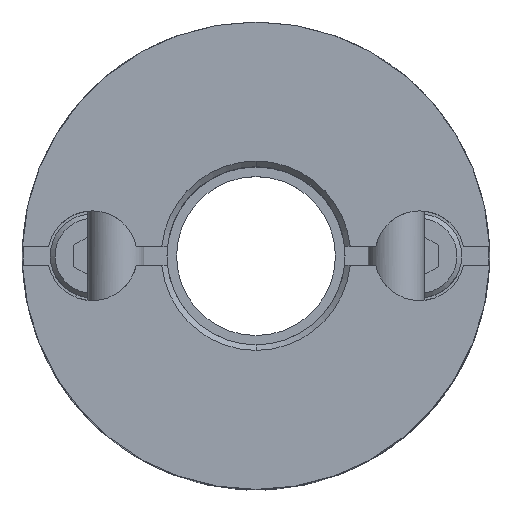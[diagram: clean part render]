
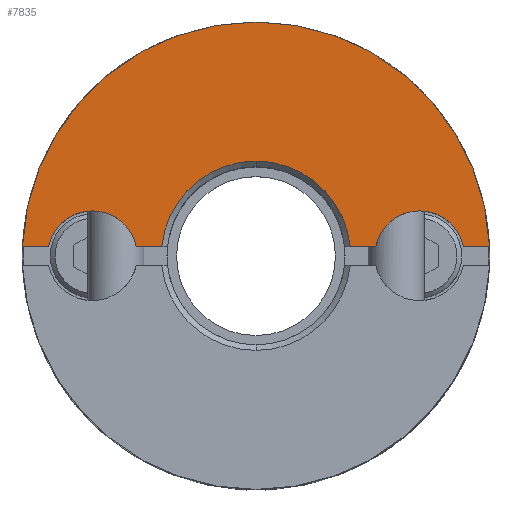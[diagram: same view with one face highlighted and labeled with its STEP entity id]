
A CAD part, top view. The second image highlights one B-rep face of the part: STEP entity #7835.
In plain terms, the highlighted planar face has unit normal (0, 0, 1).
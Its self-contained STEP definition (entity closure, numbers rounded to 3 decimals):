
#809=CARTESIAN_POINT('',(0.,12.5,11.7));
#810=VERTEX_POINT('',#809);
#817=CARTESIAN_POINT('',(12.49,0.5,11.7));
#818=VERTEX_POINT('',#817);
#819=CARTESIAN_POINT('',(0.,0.0,11.7));
#820=DIRECTION('',(0.0,0.0,-1.0));
#821=DIRECTION('',(0.0,-1.0,0.0));
#822=AXIS2_PLACEMENT_3D('',#819,#820,#821);
#823=CIRCLE('',#822,12.5);
#824=EDGE_CURVE('',#810,#818,#823,.T.);
#1028=CARTESIAN_POINT('',(0.,5.063,11.7));
#1029=VERTEX_POINT('',#1028);
#1037=CARTESIAN_POINT('',(5.038,0.5,11.7));
#1038=VERTEX_POINT('',#1037);
#1052=CARTESIAN_POINT('',(0.,0.0,11.7));
#1053=DIRECTION('',(0.0,0.0,1.0));
#1054=DIRECTION('',(0.0,1.0,0.0));
#1055=AXIS2_PLACEMENT_3D('',#1052,#1053,#1054);
#1056=CIRCLE('',#1055,5.063);
#1057=EDGE_CURVE('',#1038,#1029,#1056,.T.);
#1428=CARTESIAN_POINT('',(8.75,2.4,11.7));
#1429=VERTEX_POINT('',#1428);
#1436=CARTESIAN_POINT('',(6.403,0.5,11.7));
#1437=VERTEX_POINT('',#1436);
#1438=CARTESIAN_POINT('',(8.75,0.,11.7));
#1439=DIRECTION('',(0.0,0.0,-1.0));
#1440=DIRECTION('',(0.0,-1.0,0.0));
#1441=AXIS2_PLACEMENT_3D('',#1438,#1439,#1440);
#1442=CIRCLE('',#1441,2.4);
#1443=EDGE_CURVE('',#1437,#1429,#1442,.T.);
#1503=CARTESIAN_POINT('',(11.097,0.5,11.7));
#1504=VERTEX_POINT('',#1503);
#1511=CARTESIAN_POINT('',(8.75,0.,11.7));
#1512=DIRECTION('',(0.0,0.0,-1.0));
#1513=DIRECTION('',(0.0,-1.0,0.0));
#1514=AXIS2_PLACEMENT_3D('',#1511,#1512,#1513);
#1515=CIRCLE('',#1514,2.4);
#1516=EDGE_CURVE('',#1429,#1504,#1515,.T.);
#1837=CARTESIAN_POINT('',(-8.75,2.4,11.7));
#1838=VERTEX_POINT('',#1837);
#1870=CARTESIAN_POINT('',(-6.403,0.5,11.7));
#1871=VERTEX_POINT('',#1870);
#1878=CARTESIAN_POINT('',(-8.75,0.,11.7));
#1879=DIRECTION('',(0.0,0.0,-1.0));
#1880=DIRECTION('',(0.0,-1.0,0.0));
#1881=AXIS2_PLACEMENT_3D('',#1878,#1879,#1880);
#1882=CIRCLE('',#1881,2.4);
#1883=EDGE_CURVE('',#1838,#1871,#1882,.T.);
#6343=CARTESIAN_POINT('',(-11.097,0.5,11.7));
#6344=VERTEX_POINT('',#6343);
#6345=CARTESIAN_POINT('',(-8.75,0.,11.7));
#6346=DIRECTION('',(0.0,0.0,-1.0));
#6347=DIRECTION('',(0.0,-1.0,0.0));
#6348=AXIS2_PLACEMENT_3D('',#6345,#6346,#6347);
#6349=CIRCLE('',#6348,2.4);
#6350=EDGE_CURVE('',#6344,#1838,#6349,.T.);
#6870=CARTESIAN_POINT('',(5.038,0.5,11.7));
#6871=DIRECTION('',(1.0,0.0,0.0));
#6872=VECTOR('',#6871,1.365);
#6873=LINE('',#6870,#6872);
#6874=EDGE_CURVE('',#1038,#1437,#6873,.T.);
#6938=CARTESIAN_POINT('',(-5.038,0.5,11.7));
#6939=VERTEX_POINT('',#6938);
#6953=CARTESIAN_POINT('',(-6.403,0.5,11.7));
#6954=DIRECTION('',(1.0,0.0,0.0));
#6955=VECTOR('',#6954,1.365);
#6956=LINE('',#6953,#6955);
#6957=EDGE_CURVE('',#1871,#6939,#6956,.T.);
#7613=CARTESIAN_POINT('',(-12.49,0.5,11.7));
#7614=VERTEX_POINT('',#7613);
#7615=CARTESIAN_POINT('',(-12.49,0.5,11.7));
#7616=DIRECTION('',(1.0,0.0,0.0));
#7617=VECTOR('',#7616,1.393);
#7618=LINE('',#7615,#7617);
#7619=EDGE_CURVE('',#7614,#6344,#7618,.T.);
#7719=CARTESIAN_POINT('',(11.097,0.5,11.7));
#7720=DIRECTION('',(1.0,0.0,0.0));
#7721=VECTOR('',#7720,1.393);
#7722=LINE('',#7719,#7721);
#7723=EDGE_CURVE('',#1504,#818,#7722,.T.);
#7804=CARTESIAN_POINT('',(0.,-1.136,11.7));
#7805=DIRECTION('',(0.0,0.0,1.0));
#7806=DIRECTION('',(0.0,-1.0,0.0));
#7807=AXIS2_PLACEMENT_3D('',#7804,#7805,#7806);
#7808=PLANE('',#7807);
#7809=ORIENTED_EDGE('',*,*,#6350,.T.);
#7810=ORIENTED_EDGE('',*,*,#1883,.T.);
#7811=ORIENTED_EDGE('',*,*,#6957,.T.);
#7812=CARTESIAN_POINT('',(0.,0.0,11.7));
#7813=DIRECTION('',(0.0,0.0,1.0));
#7814=DIRECTION('',(0.0,1.0,0.0));
#7815=AXIS2_PLACEMENT_3D('',#7812,#7813,#7814);
#7816=CIRCLE('',#7815,5.063);
#7817=EDGE_CURVE('',#1029,#6939,#7816,.T.);
#7818=ORIENTED_EDGE('',*,*,#7817,.F.);
#7819=ORIENTED_EDGE('',*,*,#1057,.F.);
#7820=ORIENTED_EDGE('',*,*,#6874,.T.);
#7821=ORIENTED_EDGE('',*,*,#1443,.T.);
#7822=ORIENTED_EDGE('',*,*,#1516,.T.);
#7823=ORIENTED_EDGE('',*,*,#7723,.T.);
#7824=ORIENTED_EDGE('',*,*,#824,.F.);
#7825=CARTESIAN_POINT('',(0.,0.0,11.7));
#7826=DIRECTION('',(0.0,0.0,-1.0));
#7827=DIRECTION('',(0.0,-1.0,0.0));
#7828=AXIS2_PLACEMENT_3D('',#7825,#7826,#7827);
#7829=CIRCLE('',#7828,12.5);
#7830=EDGE_CURVE('',#7614,#810,#7829,.T.);
#7831=ORIENTED_EDGE('',*,*,#7830,.F.);
#7832=ORIENTED_EDGE('',*,*,#7619,.T.);
#7833=EDGE_LOOP('',(#7809,#7810,#7811,#7818,#7819,#7820,#7821,#7822,#7823,#7824,#7831,#7832));
#7834=FACE_OUTER_BOUND('',#7833,.T.);
#7835=ADVANCED_FACE('',(#7834),#7808,.T.);
